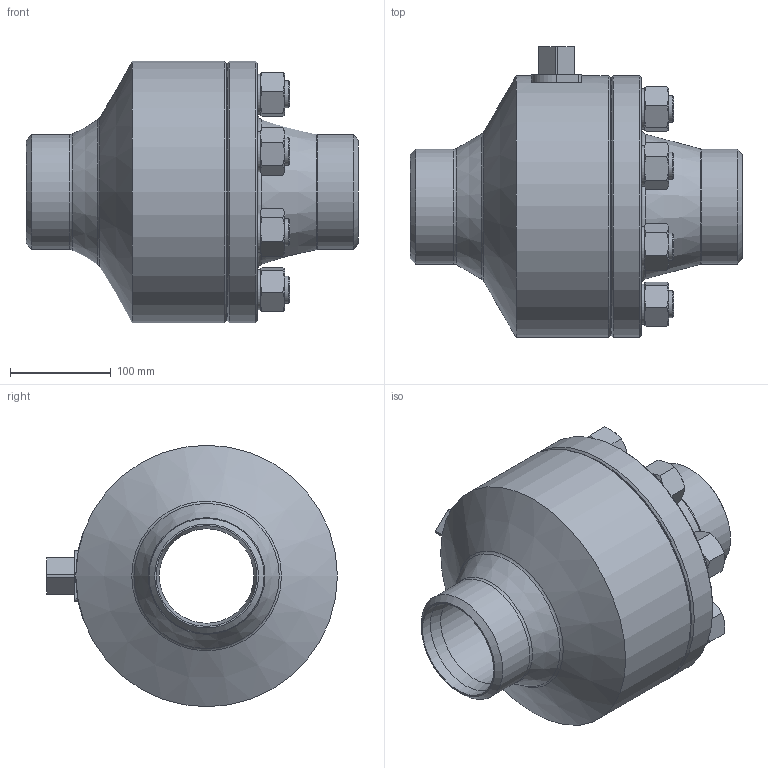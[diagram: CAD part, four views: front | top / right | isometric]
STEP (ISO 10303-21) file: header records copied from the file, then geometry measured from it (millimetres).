
FILE_DESCRIPTION((''),'2;1');
FILE_NAME('C:\Users\Bartek\Desktop\Nowy folder (2)\Nowy folder (22)\WK5b\WK5bc DN100 PN100_Substitute_1.stp','2024-09-17T10:28:41',('Bartek'),(''),'Autodesk Inventor 2012','Autodesk Inventor 2012','');
FILE_SCHEMA(('AUTOMOTIVE_DESIGN { 1 0 10303 214 1 1 1 1 }'));
Length unit declared in the file: millimetre
Products named in the file (1): WK5bc DN100 PN100_Substitute_1
Bounding box: 330 x 289 x 260 mm (x, y, z)
Volume: 7731681.2 mm3; surface area: 441089.8 mm2
Topology: 1 solids, 1 shells, 243 faces, 519 edges, 307 vertices
Faces by surface type: cone 114, plane 93, cylinder 32, torus 4
Full cylindrical faces by diameter (mm): 27 x8, 40 x8, 94 x1, 100.1 x2, 114.3 x2, 180 x1, 260 x2
Entity records: 6235 total; most frequent: CARTESIAN_POINT 1392, DIRECTION 946, ORIENTED_EDGE 930, EDGE_CURVE 465, AXIS2_PLACEMENT_3D 429, EDGE_LOOP 320, VERTEX_POINT 299, STYLED_ITEM 244
